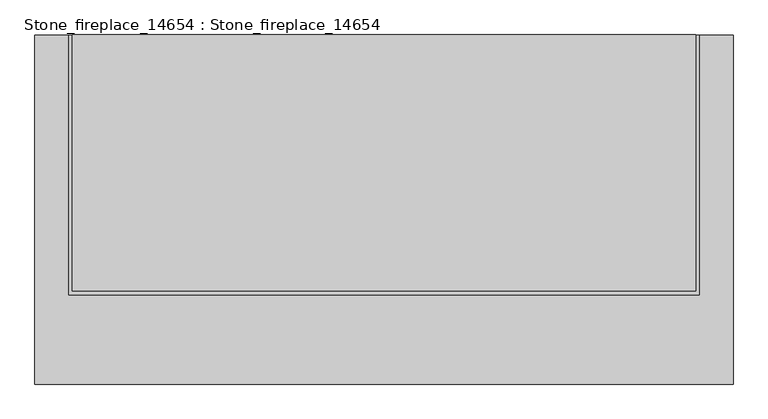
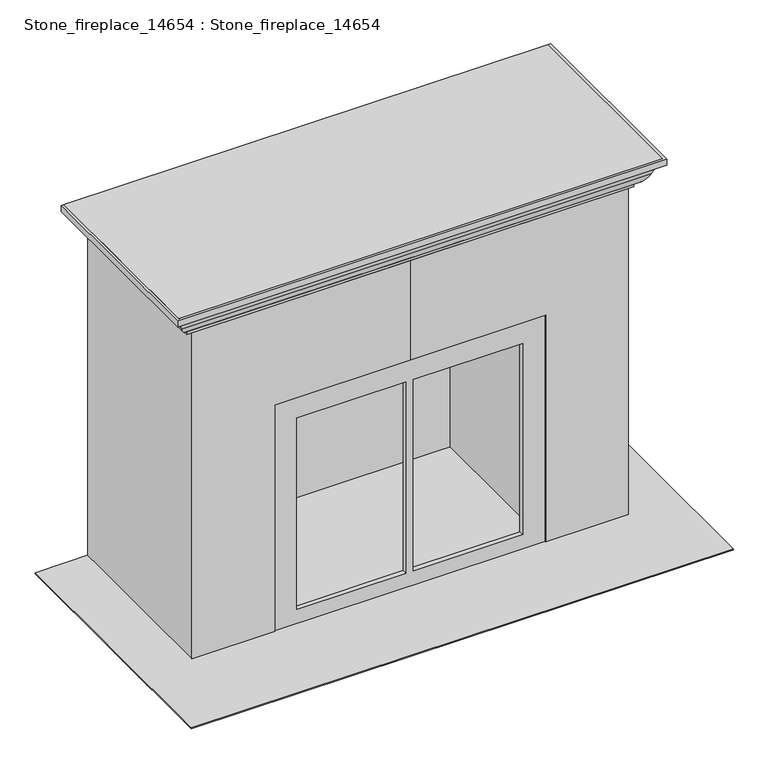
"""IFC4 building model written with IfcOpenShell, lengths in millimetres: proxy geometry, Stone_fireplace_14654 : Stone_fireplace_14654."""

import ifcopenshell
import ifcopenshell.guid

model = None  # the IFC model being written
_history = None  # IfcOwnerHistory: only IFC2X3 demands one
_inside = {}  # id of a spatial element -> (the spatial element, [elements in it])
_under = {}  # id of a project, library or spatial element -> (it, [spatial elements below it])
_declared = {}  # id of a project -> (the project, [libraries it declares])
_typed = {}  # id of a type object -> (the type object, [elements of that type])
_made_of = {}  # id of a material, layer set ... -> (it, [elements and type objects made of it])


def new_model(schema):
    """Start an empty IFC model of exactly this schema.

    Asked for "IFC4X3", IfcOpenShell would pick the latest addendum, in which some entities
    have other attributes; the version numbers below select the first issue.
    IFC2X3 requires an IfcOwnerHistory on every rooted entity: one is made here for all.
    """
    global model, _history
    if schema == "IFC4X3":
        model = ifcopenshell.file(schema_version=(4, 3, 0, 0))
    else:
        model = ifcopenshell.file(schema=schema)
    _inside.clear()
    _under.clear()
    _declared.clear()
    _typed.clear()
    _made_of.clear()
    _history = None
    if model.schema == "IFC2X3":
        org = make("IfcOrganization", Name="unknown")
        user = make(
            "IfcPersonAndOrganization",
            ThePerson=make("IfcPerson", FamilyName="unknown"),
            TheOrganization=org,
        )
        app = make(
            "IfcApplication",
            ApplicationDeveloper=org,
            Version="unknown",
            ApplicationFullName="unknown",
            ApplicationIdentifier="unknown",
        )
        _history = make(
            "IfcOwnerHistory",
            OwningUser=user,
            OwningApplication=app,
            ChangeAction="ADDED",
            CreationDate=0,
        )
    return model


def make(cls, **values):
    """One entity of the class cls with the attributes given. An attribute that is None is left unset."""
    return model.create_entity(
        cls, **{name: value for name, value in values.items() if value is not None}
    )


def rooted(cls, **values):
    """An entity with a GlobalId (a new one), such as an element, a storey or a relation."""
    return make(cls, GlobalId=ifcopenshell.guid.new(), OwnerHistory=_history, **values)


def si_unit(unit_type, name, prefix=None):
    """IfcSIUnit, for example si_unit("LENGTHUNIT", "METRE", prefix="MILLI")."""
    return make("IfcSIUnit", UnitType=unit_type, Prefix=prefix, Name=name)


def assignment(units):
    """IfcUnitAssignment: the units of a project."""
    return None if units is None else make("IfcUnitAssignment", Units=units)


def point(xyz):
    """IfcCartesianPoint."""
    return None if xyz is None else make("IfcCartesianPoint", Coordinates=xyz)


def direction(xyz):
    """IfcDirection."""
    return None if xyz is None else make("IfcDirection", DirectionRatios=xyz)


def frame(location, z_axis=None, x_axis=None):
    """IfcAxis2Placement3D, a coordinate frame: its origin and axes. An axis left out is left unset."""
    return make(
        "IfcAxis2Placement3D",
        Location=point(location),
        Axis=direction(z_axis),
        RefDirection=direction(x_axis),
    )


def origin():
    """The frame at (0, 0, 0) with its axes left unset."""
    return frame((0.0, 0.0, 0.0))


def origin_with_axes():
    """The frame at (0, 0, 0) with the z axis (0, 0, 1) and the x axis (1, 0, 0) written out."""
    return frame((0.0, 0.0, 0.0), z_axis=(0.0, 0.0, 1.0), x_axis=(1.0, 0.0, 0.0))


def place(relative_to, where):
    """IfcLocalPlacement: puts the frame where relative to a parent placement (None: the world)."""
    return make(
        "IfcLocalPlacement", PlacementRelTo=relative_to, RelativePlacement=where
    )


def context(
    kind, dimensions, precision=None, world=None, true_north=None, identifier=None
):
    """IfcGeometricRepresentationContext, for example the 3D "Model" context."""
    return make(
        "IfcGeometricRepresentationContext",
        ContextIdentifier=identifier,
        ContextType=kind,
        CoordinateSpaceDimension=dimensions,
        Precision=precision,
        WorldCoordinateSystem=world,
        TrueNorth=true_north,
    )


def project(units=None, contexts=None):
    """IfcProject with its units and contexts."""
    return rooted(
        "IfcProject",
        Name="project",
        RepresentationContexts=contexts,
        UnitsInContext=assignment(units),
    )


def spatial(cls, under=None, at=None, **own):
    """A site, building, storey or space (cls), placed at a placement, below another one or the project."""
    s = rooted(cls, ObjectPlacement=at, **own)
    if under is not None:
        _under.setdefault(under.id(), (under, []))[1].append(s)
    return s


def polyline(points):
    """IfcPolyline through the points."""
    return make("IfcPolyline", Points=[point(p) for p in points])


def circle_curve(where, radius):
    """IfcCircle in the frame where."""
    return make("IfcCircle", Position=where, Radius=radius)


def ellipse_curve(where, semi_axis1, semi_axis2):
    """IfcEllipse in the frame where."""
    return make(
        "IfcEllipse", Position=where, SemiAxis1=semi_axis1, SemiAxis2=semi_axis2
    )


def outline(outer, holes=None, kind="AREA"):
    """IfcArbitraryClosedProfileDef: a profile drawn as a closed curve; with holes, ...WithVoids."""
    if holes is None:
        return make("IfcArbitraryClosedProfileDef", ProfileType=kind, OuterCurve=outer)
    return make(
        "IfcArbitraryProfileDefWithVoids",
        ProfileType=kind,
        OuterCurve=outer,
        InnerCurves=holes,
    )


def extrude(swept, where, along, depth):
    """IfcExtrudedAreaSolid: the profile swept, set in the frame where, extruded along a direction by depth."""
    return make(
        "IfcExtrudedAreaSolid",
        SweptArea=swept,
        Position=where,
        ExtrudedDirection=direction(along),
        Depth=depth,
    )


def faces_of(points, faces, orient=None, outer=None):
    """IfcFace entities. A face is a list of loops; a loop is a list of indices into points, from 0.

    orient and outer hold one flag for each loop. By default every Orientation is true, the
    first loop of a face is its IfcFaceOuterBound and the others are IfcFaceBound.
    """
    made = []
    for i, loops in enumerate(faces):
        bounds = []
        for j, loop in enumerate(loops):
            is_outer = j == 0 if outer is None else outer[i][j]
            bounds.append(
                make(
                    "IfcFaceOuterBound" if is_outer else "IfcFaceBound",
                    Bound=make("IfcPolyLoop", Polygon=[points[k] for k in loop]),
                    Orientation=True if orient is None else orient[i][j],
                )
            )
        made.append(make("IfcFace", Bounds=bounds))
    return made


def faceted_brep(points, faces, orient=None, outer=None, voids=None):
    """IfcFacetedBrep: a solid bounded by flat faces; with voids (closed shells), ...WithVoids."""
    shared = [point(p) for p in points]
    hull = make("IfcClosedShell", CfsFaces=faces_of(shared, faces, orient, outer))
    if voids is None:
        return make("IfcFacetedBrep", Outer=hull)
    return make(
        "IfcFacetedBrepWithVoids",
        Outer=hull,
        Voids=[
            make(cls, CfsFaces=faces_of(shared, fs, o, b)) for cls, fs, o, b in voids
        ],
    )


def shape(context_of_items, identifier, shape_type, items):
    """IfcShapeRepresentation: the items that make up one representation, for example the "Body"."""
    return make(
        "IfcShapeRepresentation",
        ContextOfItems=context_of_items,
        RepresentationIdentifier=identifier,
        RepresentationType=shape_type,
        Items=items,
    )


def source(mapping_origin, context_of_items, identifier, shape_type, items):
    """IfcRepresentationMap: a shape defined once, which mapped items show again and again."""
    return make(
        "IfcRepresentationMap",
        MappingOrigin=mapping_origin,
        MappedRepresentation=shape(context_of_items, identifier, shape_type, items),
    )


def transform(
    local_origin,
    x_axis=None,
    y_axis=None,
    z_axis=None,
    scale=None,
    scale2=None,
    scale3=None,
    uniform=True,
):
    """IfcCartesianTransformationOperator3D, or its non-uniform kind. x_axis, y_axis, z_axis: its Axis1, 2, 3."""
    if uniform:
        return make(
            "IfcCartesianTransformationOperator3D",
            Axis1=direction(x_axis),
            Axis2=direction(y_axis),
            LocalOrigin=point(local_origin),
            Scale=scale,
            Axis3=direction(z_axis),
        )
    return make(
        "IfcCartesianTransformationOperator3DnonUniform",
        Axis1=direction(x_axis),
        Axis2=direction(y_axis),
        LocalOrigin=point(local_origin),
        Scale=scale,
        Axis3=direction(z_axis),
        Scale2=scale2,
        Scale3=scale3,
    )


def mapped(mapping_source, mapping_target):
    """IfcMappedItem: shows the shape of a source again, moved by a transform."""
    return make(
        "IfcMappedItem", MappingSource=mapping_source, MappingTarget=mapping_target
    )


def made_of(thing, what):
    """Note that an element or type object is made of a material, layer set ...; save() writes the relation."""
    if what is not None:
        _made_of.setdefault(what.id(), (what, []))[1].append(thing)
    return thing


def element(
    cls,
    number,
    at=None,
    inside=None,
    cuts=None,
    type_object=None,
    material=None,
    context=None,
    identifier="Body",
    shape_type=None,
    held_by="IfcProductDefinitionShape",
    body=None,
    shapes=None,
    **own,
):
    """One element of the class cls, such as IfcWall. Its Tag is "e" and its number.

    at: its placement. inside: the storey or other place that contains it. cuts: it is an
    opening in that element (IfcRelVoidsElement). A single representation is given by context,
    identifier, shape_type and body (its items); several are given by shapes. held_by: the class
    of the entity that holds the representations. save() writes the other relations.
    """
    e = rooted(cls, Tag="e%d" % number, ObjectPlacement=at, **own)
    if body is not None:
        shapes = [shape(context, identifier, shape_type, body)]
    if shapes is not None:
        e.Representation = make(held_by, Representations=shapes)
    if inside is not None:
        _inside.setdefault(inside.id(), (inside, []))[1].append(e)
    if cuts is not None:
        rooted(
            "IfcRelVoidsElement", RelatingBuildingElement=cuts, RelatedOpeningElement=e
        )
    if type_object is not None:
        _typed.setdefault(type_object.id(), (type_object, []))[1].append(e)
    return made_of(e, material)


def aggregate(whole, parts):
    """IfcRelAggregates: a whole, such as a stair, and the parts it consists of."""
    return rooted("IfcRelAggregates", RelatingObject=whole, RelatedObjects=parts)


def save(model, path):
    """Write the relations noted so far, then the file.

    IfcRelAggregates (storeys below a building ...), IfcRelContainedInSpatialStructure (elements
    in a storey), IfcRelDefinesByType, IfcRelAssociatesMaterial and IfcRelDeclares: one each for
    every whole, place, type object, material and project.
    """
    for whole, parts in _under.values():
        aggregate(whole, parts)
    for where, things in _inside.values():
        rooted(
            "IfcRelContainedInSpatialStructure",
            RelatedElements=things,
            RelatingStructure=where,
        )
    for kind, things in _typed.values():
        rooted("IfcRelDefinesByType", RelatedObjects=things, RelatingType=kind)
    for what, things in _made_of.values():
        rooted("IfcRelAssociatesMaterial", RelatedObjects=things, RelatingMaterial=what)
    for by, libraries in _declared.values():
        rooted("IfcRelDeclares", RelatingContext=by, RelatedDefinitions=libraries)
    model.write(path)


def plane_surface(at):
    """IfcPlane: the flat surface through the origin of the frame at, square to its z axis."""
    return make("IfcPlane", Position=at)


def cylinder_surface(at, radius):
    """IfcCylindricalSurface: all points at the distance radius from the z axis of the frame at."""
    return make("IfcCylindricalSurface", Position=at, Radius=radius)


def revolved_surface(curve, axis_point, axis_direction):
    """IfcSurfaceOfRevolution: the curve turned about the line through axis_point along axis_direction."""
    return make(
        "IfcSurfaceOfRevolution",
        SweptCurve=make("IfcArbitraryOpenProfileDef", ProfileType="CURVE", Curve=curve),
        AxisPosition=make("IfcAxis1Placement", Location=point(axis_point), Axis=direction(axis_direction)),
    )


def advanced_brep(points, edges, surfaces, faces):
    """IfcAdvancedBrep: a solid bounded by faces that lie on surfaces and meet in shared edges.

    An edge is (start, end): straight between two places in points (the first is 0);
    or (start, end, curve); or (start, end, curve, False) where it runs against its curve.
    A face is (place in surfaces, loops), or (place, loops, False) where it looks against
    its surface's normal. A loop lists edges by number (the first is 1), with a minus sign
    where the edge is run from its end to its start. The first loop is the outer one.
    """
    corners = [point(p) for p in points]
    vertices = [make("IfcVertexPoint", VertexGeometry=c) for c in corners]
    made = []
    for start, end, *more in edges:
        made.append(
            make(
                "IfcEdgeCurve",
                EdgeStart=vertices[start],
                EdgeEnd=vertices[end],
                EdgeGeometry=more[0] if more else make("IfcPolyline", Points=[corners[start], corners[end]]),
                SameSense=more[1] if len(more) > 1 else True,
            )
        )
    hull = []
    for where, loops, *sense in faces:
        bounds = []
        for j, loop in enumerate(loops):
            ring = [make("IfcOrientedEdge", EdgeElement=made[abs(k) - 1], Orientation=k > 0) for k in loop]
            bounds.append(
                make(
                    "IfcFaceOuterBound" if j == 0 else "IfcFaceBound",
                    Bound=make("IfcEdgeLoop", EdgeList=ring),
                    Orientation=True,
                )
            )
        hull.append(make("IfcAdvancedFace", Bounds=bounds, FaceSurface=surfaces[where], SameSense=sense[0] if sense else True))
    return make("IfcAdvancedBrep", Outer=make("IfcClosedShell", CfsFaces=hull))


def stone_fireplace_14654_stone_fireplace_14654_19c01c53(model_context):
    return source(origin(), model_context, "Body", "SolidModel", [
        extrude(outline(polyline([(-816.434787, -212.7151871), (-816.434787, 458.2950655), (816.434787, 458.2950655), (816.434787, -212.7151871), (-816.434787, -212.7151871)])), frame((0.0, 0.0, 1280.3839701), z_axis=(0.0, 0.0, 1.0), x_axis=(1.0, 0.0, 0.0)), (0.0, 0.0, 1.0), 3.175),
        extrude(outline(polyline([(-719.0468672, -133.9754656), (-719.0468672, 457.2), (718.2570851, 457.2), (718.2570851, -133.9754656), (-719.0468672, -133.9754656)])), origin_with_axes(), (0.0, 0.0, 1.0), 3.175),
        advanced_brep(
        [(-736.6, 457.2, 1180.6553027), (-736.6, 457.2, 1167.7392913), (-755.0031357, 457.2, 1167.7392913), (-755.0031357, 457.2, 1182.8072404), (-772.0665783, 457.2, 1190.7540966), (-792.5767146, 457.2, 1224.3646345), (-799.297609, 457.2, 1240.7302486), (-807.875673, 457.2, 1253.6394666), (-822.3596673, 457.2, 1261.2670143), (-825.859421, 457.2, 1261.9734405), (-825.859421, 457.2, 1283.5590004), (-816.434787, 457.2, 1283.5590004), (736.6, 457.2, 1180.6553027), (816.434787, 457.2, 1283.5590004), (825.859421, 457.2, 1283.5590004), (825.859421, 457.2, 1261.9734405), (822.3596673, 457.2, 1261.2670143), (807.875673, 457.2, 1253.6394666), (799.297609, 457.2, 1240.7302486), (792.5767146, 457.2, 1224.3646345), (772.0665783, 457.2, 1190.7540966), (755.0031357, 457.2, 1182.8072404), (755.0031357, 457.2, 1167.7392913), (736.6, 457.2, 1167.7392913), (-736.6, -133.9754656, 1180.6553027), (-816.434787, -213.8102526, 1283.5590004), (816.434787, -213.8102526, 1283.5590004), (736.6, -133.9754656, 1180.6553027), (-825.859421, -223.2348866, 1283.5590004), (-825.859421, -223.2348866, 1261.9734405), (825.859421, -223.2348866, 1261.9734405), (825.859421, -223.2348866, 1283.5590004), (-822.3596673, -219.735133, 1261.2670143), (822.3596673, -219.735133, 1261.2670143), (-807.875673, -205.2511386, 1253.6394666), (807.875673, -205.2511386, 1253.6394666), (-799.297609, -196.6730746, 1240.7302486), (799.297609, -196.6730746, 1240.7302486), (-792.5767146, -189.9521802, 1224.3646345), (792.5767146, -189.9521802, 1224.3646345), (-772.0665783, -169.4420439, 1190.7540966), (772.0665783, -169.4420439, 1190.7540966), (-755.0031357, -152.3786014, 1182.8072404), (755.0031357, -152.3786014, 1182.8072404), (-755.0031357, -152.3786014, 1167.7392913), (755.0031357, -152.3786014, 1167.7392913), (-736.6, -133.9754656, 1167.7392913), (736.6, -133.9754656, 1167.7392913)],
        [
            (0, 1),
            (1, 2),
            (2, 3),
            (3, 4, circle_curve(frame((-753.060916, 457.2, 1209.2702527), z_axis=(0.0, 1.0, 0.0), x_axis=(-1.0, 0.0, 0.0)), 26.5341899)),
            (4, 5, circle_curve(frame((-707.0360843, 457.2, 1253.5008243), z_axis=(0.0, 1.0, 0.0), x_axis=(-1.0, 0.0, 0.0)), 90.3665701)),
            (5, 6),
            (6, 7, circle_curve(frame((-834.4945958, 457.2, 1226.6467883), z_axis=(0.0, -1.0, 0.0), x_axis=(-1.0, 0.0, 0.0)), 37.9100479)),
            (7, 8, circle_curve(frame((-829.0629333, 457.2, 1230.9724996), z_axis=(0.0, -1.0, 0.0), x_axis=(-1.0, 0.0, 0.0)), 31.0272686)),
            (8, 9, circle_curve(frame((-830.7747049, 457.2, 1228.599907), z_axis=(0.0, -1.0, 0.0), x_axis=(-1.0, 0.0, 0.0)), 33.7335553)),
            (9, 10),
            (10, 11),
            (11, 0),
            (12, 13),
            (13, 14),
            (14, 15),
            (15, 16, circle_curve(frame((830.7747049, 457.2, 1228.599907), z_axis=(0.0, -1.0, 0.0), x_axis=(1.0, 0.0, 0.0)), 33.7335553)),
            (16, 17, circle_curve(frame((829.0629333, 457.2, 1230.9724996), z_axis=(0.0, -1.0, 0.0), x_axis=(1.0, 0.0, 0.0)), 31.0272686)),
            (17, 18, circle_curve(frame((834.4945958, 457.2, 1226.6467883), z_axis=(0.0, -1.0, 0.0), x_axis=(1.0, 0.0, 0.0)), 37.9100479)),
            (18, 19),
            (19, 20, circle_curve(frame((707.0360843, 457.2, 1253.5008243), z_axis=(0.0, 1.0, 0.0), x_axis=(1.0, 0.0, 0.0)), 90.3665701)),
            (20, 21, circle_curve(frame((753.060916, 457.2, 1209.2702527), z_axis=(0.0, 1.0, 0.0), x_axis=(1.0, 0.0, 0.0)), 26.5341899)),
            (21, 22),
            (22, 23),
            (23, 12),
            (24, 25),
            (25, 26),
            (26, 27),
            (27, 24),
            (28, 29),
            (29, 30),
            (30, 31),
            (31, 28),
            (29, 32, ellipse_curve(frame((-830.7747049, -228.1501705, 1228.599907), z_axis=(-0.707106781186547, 0.707106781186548, 0.0), x_axis=(0.707106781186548, 0.707106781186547, 0.0)), 47.7064514, 33.7335553)),
            (32, 33),
            (33, 30, ellipse_curve(frame((830.7747049, -228.1501705, 1228.599907), z_axis=(0.707106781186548, 0.707106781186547, 0.0), x_axis=(0.707106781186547, -0.707106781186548, 0.0)), 47.7064514, 33.7335553)),
            (32, 34, ellipse_curve(frame((-829.0629333, -226.438399, 1230.9724996), z_axis=(-0.707106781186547, 0.707106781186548, 0.0), x_axis=(0.707106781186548, 0.707106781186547, 0.0)), 43.8791841, 31.0272686)),
            (34, 35),
            (35, 33, ellipse_curve(frame((829.0629333, -226.438399, 1230.9724996), z_axis=(0.707106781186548, 0.707106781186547, 0.0), x_axis=(0.707106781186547, -0.707106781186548, 0.0)), 43.8791841, 31.0272686)),
            (34, 36, ellipse_curve(frame((-834.4945958, -231.8700614, 1226.6467883), z_axis=(-0.707106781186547, 0.707106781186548, 0.0), x_axis=(0.707106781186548, 0.707106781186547, 0.0)), 53.6129039, 37.9100479)),
            (36, 37),
            (37, 35, ellipse_curve(frame((834.4945958, -231.8700614, 1226.6467883), z_axis=(0.707106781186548, 0.707106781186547, 0.0), x_axis=(0.707106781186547, -0.707106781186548, 0.0)), 53.6129039, 37.9100479)),
            (36, 38),
            (38, 39),
            (39, 37),
            (38, 40, ellipse_curve(frame((-707.0360843, -104.4115499, 1253.5008243), z_axis=(0.707106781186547, -0.707106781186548, 0.0), x_axis=(-0.707106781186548, -0.707106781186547, 0.0)), 127.797629, 90.3665701)),
            (40, 41),
            (41, 39, ellipse_curve(frame((707.0360843, -104.4115499, 1253.5008243), z_axis=(-0.707106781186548, -0.707106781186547, 0.0), x_axis=(-0.707106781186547, 0.707106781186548, 0.0)), 127.797629, 90.3665701)),
            (40, 42, ellipse_curve(frame((-753.060916, -150.4363816, 1209.2702527), z_axis=(0.707106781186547, -0.707106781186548, 0.0), x_axis=(-0.707106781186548, -0.707106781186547, 0.0)), 37.5250113, 26.5341899)),
            (42, 43),
            (43, 41, ellipse_curve(frame((753.060916, -150.4363816, 1209.2702527), z_axis=(-0.707106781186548, -0.707106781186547, 0.0), x_axis=(-0.707106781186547, 0.707106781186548, 0.0)), 37.5250113, 26.5341899)),
            (42, 44),
            (44, 45),
            (45, 43),
            (46, 24),
            (27, 47),
            (47, 46),
            (0, 24),
            (46, 1),
            (47, 23),
            (22, 45),
            (44, 2),
            (42, 3),
            (40, 4),
            (38, 5),
            (36, 6),
            (34, 7),
            (32, 8),
            (29, 9),
            (28, 10),
            (31, 14),
            (13, 26),
            (25, 11),
            (27, 12),
            (21, 43),
            (20, 41),
            (19, 39),
            (18, 37),
            (17, 35),
            (16, 33),
            (15, 30),
        ],
        [
            plane_surface(frame((-736.6, 457.2, 1167.7392913), z_axis=(0.0, 1.0, 0.0), x_axis=(0.0, 0.0, 1.0))),
            plane_surface(frame((736.6, 457.2, 1167.7392913), z_axis=(0.0, 1.0, 0.0), x_axis=(0.0, 0.0, 1.0))),
            plane_surface(frame((-816.434787, -213.8102526, 1283.5590004), z_axis=(0.0, 0.790101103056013, 0.6129765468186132), x_axis=(1.0, 0.0, 0.0))),
            plane_surface(frame((-825.859421, -223.2348866, 1261.9734405), z_axis=(0.0, -1.0, 0.0), x_axis=(1.0, 0.0, 0.0))),
            revolved_surface(polyline([(864.5082601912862, -261.8837258, 1228.599907), (-864.5082601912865, -261.8837258, 1228.599907)]), (-736.6, -228.1501705, 1228.599907), (1.0, 0.0, 0.0)),
            revolved_surface(polyline([(860.090201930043, -257.4656676, 1230.9724996), (-860.090201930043, -257.4656676, 1230.9724996)]), (-736.6, -226.438399, 1230.9724996), (1.0, 0.0, 0.0)),
            revolved_surface(polyline([(872.4046437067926, -269.7801093, 1226.6467883), (-872.4046437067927, -269.7801093, 1226.6467883)]), (-736.6, -231.8700614, 1226.6467883), (1.0, 0.0, 0.0)),
            plane_surface(frame((-792.5767146, -189.9521802, 1224.3646345), z_axis=(0.0, -0.9250336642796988, -0.37988514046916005), x_axis=(1.0, 0.0, 0.0))),
            cylinder_surface(frame((-736.6, -104.4115499, 1253.5008243), z_axis=(-1.0, 0.0, 0.0), x_axis=(0.0, -1.0, 0.0)), 90.3665701),
            cylinder_surface(frame((-736.6, -150.4363816, 1209.2702527), z_axis=(-1.0, 0.0, 0.0), x_axis=(0.0, -1.0, 0.0)), 26.5341899),
            plane_surface(frame((-755.0031357, -152.3786014, 1167.7392913), z_axis=(0.0, -1.0, 0.0), x_axis=(1.0, 0.0, 0.0))),
            plane_surface(frame((-736.6, -133.9754656, 1180.6553027), z_axis=(0.0, 1.0, 0.0), x_axis=(1.0, 0.0, 0.0))),
            plane_surface(frame((-736.6, 457.2, 1180.6553027), z_axis=(1.0, 0.0, 0.0), x_axis=(0.0, -1.0, 0.0))),
            plane_surface(frame((-736.6, 457.2, 1167.7392913), z_axis=(0.0, 0.0, -1.0), x_axis=(0.0, -1.0, 0.0))),
            plane_surface(frame((-755.0031357, 457.2, 1167.7392913), z_axis=(-1.0, 0.0, 0.0), x_axis=(0.0, -1.0, 0.0))),
            cylinder_surface(frame((-753.060916, 457.2, 1209.2702527), z_axis=(0.0, 1.0, 0.0), x_axis=(-1.0, 0.0, 0.0)), 26.5341899),
            cylinder_surface(frame((-707.0360843, 457.2, 1253.5008243), z_axis=(0.0, 1.0, 0.0), x_axis=(-1.0, 0.0, 0.0)), 90.3665701),
            plane_surface(frame((-792.5767146, 457.2, 1224.3646345), z_axis=(-0.9250336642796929, 0.0, -0.37988514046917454), x_axis=(0.0, -1.0, 0.0))),
            revolved_surface(polyline([(-872.4046437, -269.78010930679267, 1226.6467883), (-872.4046437, 457.2, 1226.6467883)]), (-834.4945958, 457.2, 1226.6467883), (0.0, -1.0, 0.0)),
            revolved_surface(polyline([(-860.0902019, -257.4656676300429, 1230.9724996), (-860.0902019, 457.2, 1230.9724996)]), (-829.0629333, 457.2, 1230.9724996), (0.0, -1.0, 0.0)),
            revolved_surface(polyline([(-864.5082602, -261.8837257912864, 1228.599907), (-864.5082602, 457.2, 1228.599907)]), (-830.7747049, 457.2, 1228.599907), (0.0, -1.0, 0.0)),
            plane_surface(frame((-825.859421, 457.2, 1261.9734405), z_axis=(-1.0, 0.0, 0.0), x_axis=(0.0, -1.0, 0.0))),
            plane_surface(frame((-825.859421, 457.2, 1283.5590004), z_axis=(0.0, 0.0, 1.0), x_axis=(0.0, -1.0, 0.0))),
            plane_surface(frame((-816.434787, 457.2, 1283.5590004), z_axis=(0.7901011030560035, 0.0, 0.6129765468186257), x_axis=(0.0, -1.0, 0.0))),
            plane_surface(frame((736.6, -133.9754656, 1180.6553027), z_axis=(-1.0, 0.0, 0.0), x_axis=(0.0, 1.0, 0.0))),
            plane_surface(frame((755.0031357, -152.3786014, 1167.7392913), z_axis=(1.0, 0.0, 0.0), x_axis=(0.0, 1.0, 0.0))),
            cylinder_surface(frame((753.060916, -133.9754656, 1209.2702527), z_axis=(0.0, -1.0, 0.0), x_axis=(1.0, 0.0, 0.0)), 26.5341899),
            cylinder_surface(frame((707.0360843, -133.9754656, 1253.5008243), z_axis=(0.0, -1.0, 0.0), x_axis=(1.0, 0.0, 0.0)), 90.3665701),
            plane_surface(frame((792.5767146, -189.9521802, 1224.3646345), z_axis=(0.9250336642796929, 0.0, -0.37988514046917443), x_axis=(0.0, 1.0, 0.0))),
            revolved_surface(polyline([(872.4046437, 457.20000000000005, 1226.6467883), (872.4046437, -269.7801093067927, 1226.6467883)]), (834.4945958, -133.9754656, 1226.6467883), (0.0, 1.0, 0.0)),
            revolved_surface(polyline([(860.0902019, 457.20000000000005, 1230.9724996), (860.0902019, -257.46566763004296, 1230.9724996)]), (829.0629333, -133.9754656, 1230.9724996), (0.0, 1.0, 0.0)),
            revolved_surface(polyline([(864.5082602, 457.20000000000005, 1228.599907), (864.5082602, -261.88372579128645, 1228.599907)]), (830.7747049, -133.9754656, 1228.599907), (0.0, 1.0, 0.0)),
            plane_surface(frame((825.859421, -223.2348866, 1261.9734405), z_axis=(1.0, 0.0, 0.0), x_axis=(0.0, 1.0, 0.0))),
            plane_surface(frame((816.434787, -213.8102526, 1283.5590004), z_axis=(-0.7901011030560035, 0.0, 0.6129765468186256), x_axis=(0.0, 1.0, 0.0))),
        ],
        [
            (0, [[1, 2, 3, 4, 5, 6, 7, 8, 9, 10, 11, 12]]),
            (1, [[13, 14, 15, 16, 17, 18, 19, 20, 21, 22, 23, 24]]),
            (2, [[25, 26, 27, 28]]),
            (3, [[29, 30, 31, 32]]),
            (4, [[33, 34, 35, -30]]),
            (5, [[36, 37, 38, -34]]),
            (6, [[39, 40, 41, -37]]),
            (7, [[42, 43, 44, -40]]),
            (8, [[45, 46, 47, -43]]),
            (9, [[48, 49, 50, -46]]),
            (10, [[51, 52, 53, -49]]),
            (11, [[54, -28, 55, 56]]),
            (12, [[-1, 57, -54, 58]]),
            (13, [[-2, -58, -56, 59, -23, 60, -52, 61]]),
            (14, [[-3, -61, -51, 62]]),
            (15, [[-4, -62, -48, 63]]),
            (16, [[-5, -63, -45, 64]]),
            (17, [[-6, -64, -42, 65]]),
            (18, [[-7, -65, -39, 66]]),
            (19, [[-8, -66, -36, 67]]),
            (20, [[-9, -67, -33, 68]]),
            (21, [[-10, -68, -29, 69]]),
            (22, [[-11, -69, -32, 70, -14, 71, -26, 72]]),
            (23, [[-12, -72, -25, -57]]),
            (24, [[-55, 73, -24, -59]]),
            (25, [[-53, -60, -22, 74]]),
            (26, [[-50, -74, -21, 75]]),
            (27, [[-47, -75, -20, 76]]),
            (28, [[-44, -76, -19, 77]]),
            (29, [[-41, -77, -18, 78]]),
            (30, [[-38, -78, -17, 79]]),
            (31, [[-35, -79, -16, 80]]),
            (32, [[-31, -80, -15, -70]]),
            (33, [[-27, -71, -13, -73]]),
        ],
    ),
        extrude(outline(polyline([(812.8, -457.2), (3.175, -457.2), (3.175, 457.2), (812.8, 457.2), (812.8, -457.2)]), holes=[polyline([(736.6, -381.0), (736.6, -12.7), (53.975, -12.7), (53.975, -381.0), (736.6, -381.0)]), polyline([(53.975, 381.0), (53.975, 12.7), (736.6, 12.7), (736.6, 381.0), (53.975, 381.0)])]), frame((0.0, -149.6071637, 0.0), z_axis=(0.0, 1.0, 0.0), x_axis=(0.0, 0.0, 1.0)), (0.0, 0.0, 1.0), 15.3114652),
        faceted_brep([(-736.6, -152.4, 1168.4), (0.0, -152.4, 1168.4), (736.6, -152.4, 1168.4), (736.6, 457.2, 1168.4), (-736.6, 457.2, 1168.4), (-736.6, -152.4, 3.175), (-736.6, 457.2, 3.175), (736.6, 457.2, 3.175), (736.6, -152.4, 3.175), (457.2, -152.4, 3.175), (457.2, 406.4, 3.175), (-457.2, 406.4, 3.175), (-457.2, -152.4, 3.175), (-457.2, -152.4, 812.8), (0.0, -152.4, 812.8), (457.2, -152.4, 812.8), (-457.2, 406.4, 812.8), (457.2, 406.4, 812.8)], [[[0, 1, 2, 3, 4]], [[5, 6, 7, 8, 9, 10, 11, 12]], [[1, 0, 5, 12, 13, 14]], [[2, 1, 14, 15, 9, 8]], [[3, 2, 8, 7]], [[4, 3, 7, 6]], [[0, 4, 6, 5]], [[13, 16, 17, 15, 14]], [[15, 17, 10, 9]], [[17, 16, 11, 10]], [[16, 13, 12, 11]]]),
        extrude(outline(polyline([(914.4, 457.2), (914.4, -457.2), (-914.4, -457.2), (-914.4, 457.2), (-719.0468672, 457.2), (-719.0468672, -133.9754656), (718.2570851, -133.9754656), (718.2570851, 457.2), (914.4, 457.2)])), origin_with_axes(), (0.0, 0.0, 1.0), 3.175),
    ])


if __name__ == "__main__":
    model = new_model("IFC4")
    model_context = context("Model", 3, world=origin())
    ifc_project = project(units=[si_unit("LENGTHUNIT", "METRE", prefix="MILLI")], contexts=[model_context])
    site = spatial("IfcSite", under=ifc_project)
    building = spatial("IfcBuilding", under=site)
    placement = place(None, origin())
    stone_fireplace_14654_stone_fireplace_14654_shape = stone_fireplace_14654_stone_fireplace_14654_19c01c53(model_context)
    element("IfcBuildingElementProxy", 1, Name="Stone_fireplace_14654 : Stone_fireplace_14654", ObjectType="Stone_fireplace_14654 : Stone_fireplace_14654", at=placement, inside=building, context=model_context, shape_type="MappedRepresentation", body=[
        mapped(stone_fireplace_14654_stone_fireplace_14654_shape, transform((0.0, 0.0, 0.0), x_axis=(1.0, 0.0, 0.0), y_axis=(0.0, 1.0, 0.0), z_axis=(0.0, 0.0, 1.0))),
    ])
    save(model, "model.ifc")
